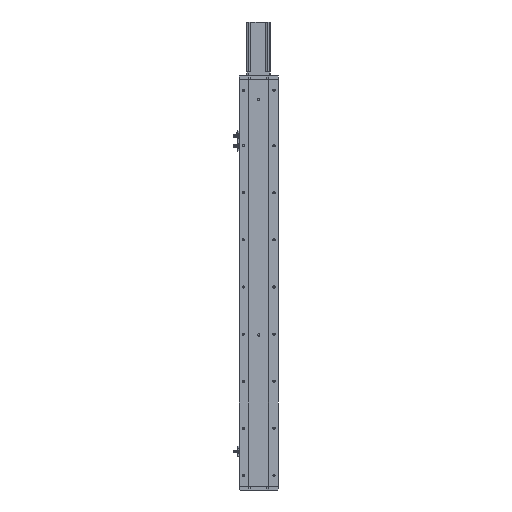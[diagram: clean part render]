
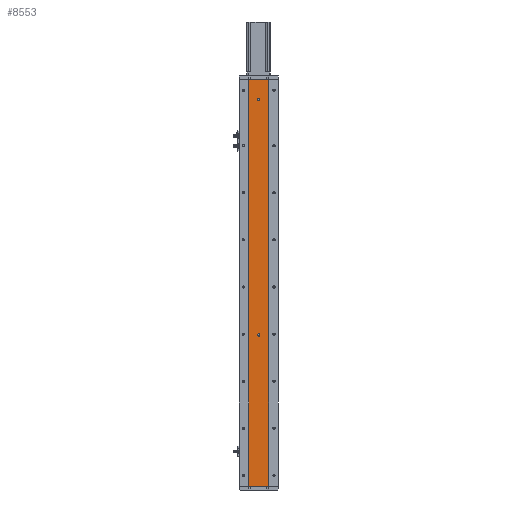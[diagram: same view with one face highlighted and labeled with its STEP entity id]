
A CAD part, left-side view. The second image highlights one B-rep face of the part: STEP entity #8553.
In plain terms, the highlighted planar face has unit normal (-1, 0, 0).
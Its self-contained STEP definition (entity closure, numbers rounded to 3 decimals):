
#414 = CARTESIAN_POINT ( 'NONE',  ( -18.926, 0., 985. ) ) ;
#573 = CARTESIAN_POINT ( 'NONE',  ( -18.926, -24.785, 1035. ) ) ;
#1575 = DIRECTION ( 'NONE',  ( 1., 0., 0. ) ) ;
#1631 = ORIENTED_EDGE ( 'NONE', *, *, #1927, .F. ) ;
#1927 = EDGE_CURVE ( 'NONE', #5227, #17897, #7206, .T. ) ;
#2000 = FACE_OUTER_BOUND ( 'NONE', #17114, .T. ) ;
#2103 = CARTESIAN_POINT ( 'NONE',  ( -18.926, 0., 988. ) ) ;
#2118 = CARTESIAN_POINT ( 'NONE',  ( -18.926, -24.785, 0. ) ) ;
#2418 = VERTEX_POINT ( 'NONE', #2118 ) ;
#2459 = CIRCLE ( 'NONE', #32969, 3. ) ;
#3050 = CARTESIAN_POINT ( 'NONE',  ( -18.926, 0., 985. ) ) ;
#3162 = LINE ( 'NONE', #6444, #38071 ) ;
#3756 = DIRECTION ( 'NONE',  ( 0., 0., 1. ) ) ;
#4346 = EDGE_LOOP ( 'NONE', ( #8085, #10010 ) ) ;
#4840 = EDGE_LOOP ( 'NONE', ( #6284, #28181 ) ) ;
#5227 = VERTEX_POINT ( 'NONE', #19429 ) ;
#6284 = ORIENTED_EDGE ( 'NONE', *, *, #34644, .F. ) ;
#6377 = DIRECTION ( 'NONE',  ( 0., 0., 1. ) ) ;
#6444 = CARTESIAN_POINT ( 'NONE',  ( -18.926, 24.785, 1035. ) ) ;
#7206 = LINE ( 'NONE', #16100, #14871 ) ;
#8085 = ORIENTED_EDGE ( 'NONE', *, *, #24970, .F. ) ;
#8553 = ADVANCED_FACE ( 'NONE', ( #27113, #10764, #2000 ), #40783, .F. ) ;
#9666 = LINE ( 'NONE', #35789, #27013 ) ;
#10010 = ORIENTED_EDGE ( 'NONE', *, *, #39603, .F. ) ;
#10764 = FACE_BOUND ( 'NONE', #4840, .T. ) ;
#10838 = CARTESIAN_POINT ( 'NONE',  ( -18.926, 0., 385. ) ) ;
#12305 = CARTESIAN_POINT ( 'NONE',  ( -18.926, 0., 385. ) ) ;
#12698 = VECTOR ( 'NONE', #39917, 1000. ) ;
#14112 = DIRECTION ( 'NONE',  ( 0., 0., 1. ) ) ;
#14727 = CARTESIAN_POINT ( 'NONE',  ( -18.926, 0., 982. ) ) ;
#14871 = VECTOR ( 'NONE', #39107, 1000. ) ;
#15557 = DIRECTION ( 'NONE',  ( 0., 0., 1. ) ) ;
#15708 = DIRECTION ( 'NONE',  ( 0., -1., 0. ) ) ;
#15730 = EDGE_CURVE ( 'NONE', #17897, #2418, #39887, .T. ) ;
#16100 = CARTESIAN_POINT ( 'NONE',  ( -18.926, 24.785, 1035. ) ) ;
#16831 = AXIS2_PLACEMENT_3D ( 'NONE', #21184, #1575, #24465 ) ;
#16931 = CARTESIAN_POINT ( 'NONE',  ( -18.926, 0., 382. ) ) ;
#17114 = EDGE_LOOP ( 'NONE', ( #32374, #32560, #1631, #24922 ) ) ;
#17893 = CARTESIAN_POINT ( 'NONE',  ( -18.926, 0., 388. ) ) ;
#17897 = VERTEX_POINT ( 'NONE', #22562 ) ;
#18929 = VERTEX_POINT ( 'NONE', #17893 ) ;
#19429 = CARTESIAN_POINT ( 'NONE',  ( -18.926, 24.785, 1035. ) ) ;
#20542 = CIRCLE ( 'NONE', #36873, 3. ) ;
#21184 = CARTESIAN_POINT ( 'NONE',  ( -18.926, 24.785, 1035. ) ) ;
#22562 = CARTESIAN_POINT ( 'NONE',  ( -18.926, -24.785, 1035. ) ) ;
#23301 = DIRECTION ( 'NONE',  ( -1., 0., 0. ) ) ;
#23917 = VERTEX_POINT ( 'NONE', #27081 ) ;
#24465 = DIRECTION ( 'NONE',  ( 0., 0., -1. ) ) ;
#24922 = ORIENTED_EDGE ( 'NONE', *, *, #35127, .T. ) ;
#24970 = EDGE_CURVE ( 'NONE', #18929, #37297, #27184, .T. ) ;
#25942 = DIRECTION ( 'NONE',  ( -1., 0., 0. ) ) ;
#27013 = VECTOR ( 'NONE', #15708, 1000. ) ;
#27081 = CARTESIAN_POINT ( 'NONE',  ( -18.926, 24.785, 0. ) ) ;
#27113 = FACE_BOUND ( 'NONE', #4346, .T. ) ;
#27184 = CIRCLE ( 'NONE', #42630, 3. ) ;
#27726 = VERTEX_POINT ( 'NONE', #14727 ) ;
#27809 = VERTEX_POINT ( 'NONE', #2103 ) ;
#28181 = ORIENTED_EDGE ( 'NONE', *, *, #29360, .F. ) ;
#29329 = DIRECTION ( 'NONE',  ( 0., 0., -1. ) ) ;
#29360 = EDGE_CURVE ( 'NONE', #27726, #27809, #37340, .T. ) ;
#30616 = AXIS2_PLACEMENT_3D ( 'NONE', #3050, #25942, #6377 ) ;
#32374 = ORIENTED_EDGE ( 'NONE', *, *, #39749, .T. ) ;
#32560 = ORIENTED_EDGE ( 'NONE', *, *, #15730, .F. ) ;
#32969 = AXIS2_PLACEMENT_3D ( 'NONE', #12305, #35225, #15557 ) ;
#33746 = DIRECTION ( 'NONE',  ( -1., 0., 0. ) ) ;
#34644 = EDGE_CURVE ( 'NONE', #27809, #27726, #20542, .T. ) ;
#35127 = EDGE_CURVE ( 'NONE', #5227, #23917, #3162, .T. ) ;
#35225 = DIRECTION ( 'NONE',  ( -1., 0., 0. ) ) ;
#35789 = CARTESIAN_POINT ( 'NONE',  ( -18.926, 24.785, 0. ) ) ;
#36873 = AXIS2_PLACEMENT_3D ( 'NONE', #414, #23301, #3756 ) ;
#37297 = VERTEX_POINT ( 'NONE', #16931 ) ;
#37340 = CIRCLE ( 'NONE', #30616, 3. ) ;
#38071 = VECTOR ( 'NONE', #29329, 1000. ) ;
#39107 = DIRECTION ( 'NONE',  ( 0., -1., 0. ) ) ;
#39603 = EDGE_CURVE ( 'NONE', #37297, #18929, #2459, .T. ) ;
#39749 = EDGE_CURVE ( 'NONE', #23917, #2418, #9666, .T. ) ;
#39887 = LINE ( 'NONE', #573, #12698 ) ;
#39917 = DIRECTION ( 'NONE',  ( 0., 0., -1. ) ) ;
#40783 = PLANE ( 'NONE',  #16831 ) ;
#42630 = AXIS2_PLACEMENT_3D ( 'NONE', #10838, #33746, #14112 ) ;
